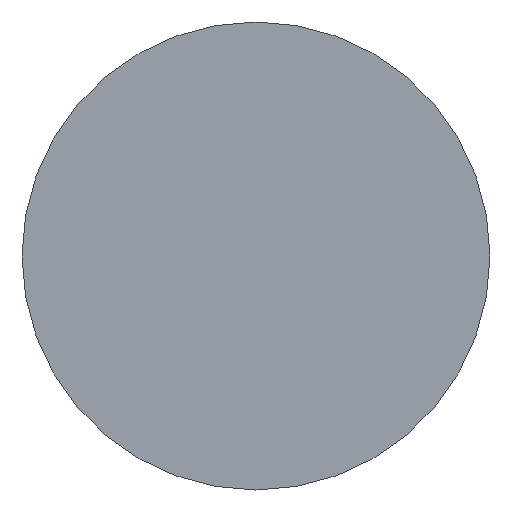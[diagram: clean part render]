
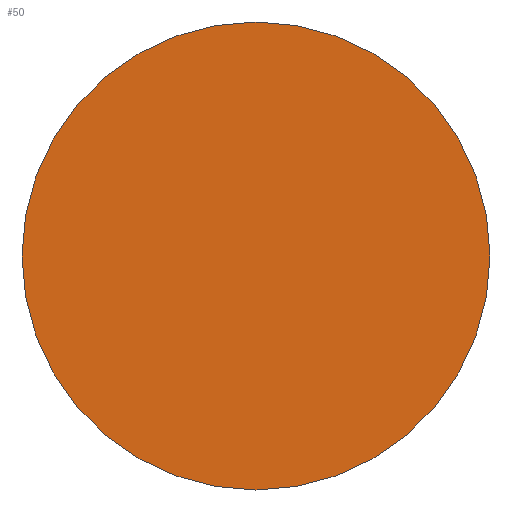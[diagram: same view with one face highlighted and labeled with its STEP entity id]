
A CAD part, left-side view. The second image highlights one B-rep face of the part: STEP entity #50.
In plain terms, the highlighted planar face has unit normal (-1, 0, 0).
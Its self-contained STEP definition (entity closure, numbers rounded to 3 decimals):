
#21 = EDGE_CURVE('',#22,#22,#24,.T.);
#22 = VERTEX_POINT('',#23);
#23 = CARTESIAN_POINT('',(-56.438,0.,153.725));
#24 = CIRCLE('',#25,15.05);
#25 = AXIS2_PLACEMENT_3D('',#26,#27,#28);
#26 = CARTESIAN_POINT('',(-56.438,0.,168.775));
#27 = DIRECTION('',(-1.,0.,0.));
#28 = DIRECTION('',(0.,0.,-1.));
#50 = ADVANCED_FACE('',(#51),#54,.T.);
#51 = FACE_BOUND('',#52,.T.);
#52 = EDGE_LOOP('',(#53));
#53 = ORIENTED_EDGE('',*,*,#21,.T.);
#54 = PLANE('',#55);
#55 = AXIS2_PLACEMENT_3D('',#56,#57,#58);
#56 = CARTESIAN_POINT('',(-56.438,0.,168.775));
#57 = DIRECTION('',(-1.,0.,0.));
#58 = DIRECTION('',(0.,0.,-1.));
